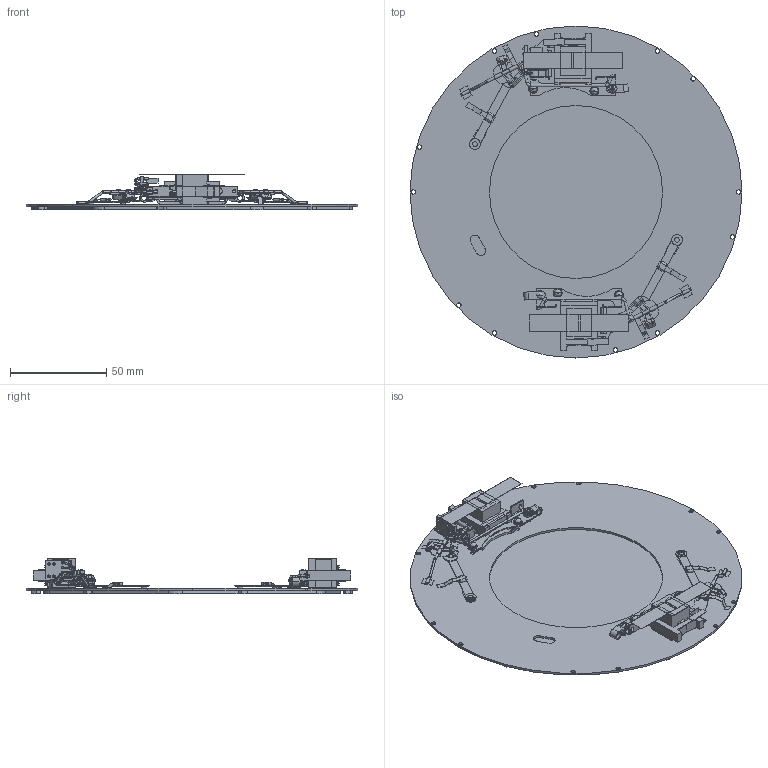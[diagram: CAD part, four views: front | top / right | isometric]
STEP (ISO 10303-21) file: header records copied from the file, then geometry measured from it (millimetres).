
FILE_DESCRIPTION (( 'STEP AP214' ), '1' );
FILE_NAME ('CS90HS STD dumb.STEP', '2013-07-17T15:39:47', ( 'helen' ), ( 'Microsoft' ), 'SwSTEP 2.0', 'SolidWorks 2010', '' );
FILE_SCHEMA (( 'AUTOMOTIVE_DESIGN' ));
Length unit declared in the file: inch
Products named in the file (1): CS90HS STD dumb
Bounding box: 172.72 x 172.72 x 18.67 mm (x, y, z)
Volume: 55733.7 mm3; surface area: 68286.1 mm2
Topology: 48 solids, 48 shells, 1923 faces, 4797 edges, 3000 vertices
Faces by surface type: plane 993, cylinder 672, cone 140, torus 92, bspline 22, sphere 4
Entity records: 84845 total; most frequent: CARTESIAN_POINT 12315, DIRECTION 10139, ORIENTED_EDGE 9586, EDGE_CURVE 4793, AXIS2_PLACEMENT_3D 3672, VERTEX_POINT 3000, VECTOR 2795, LINE 2795
